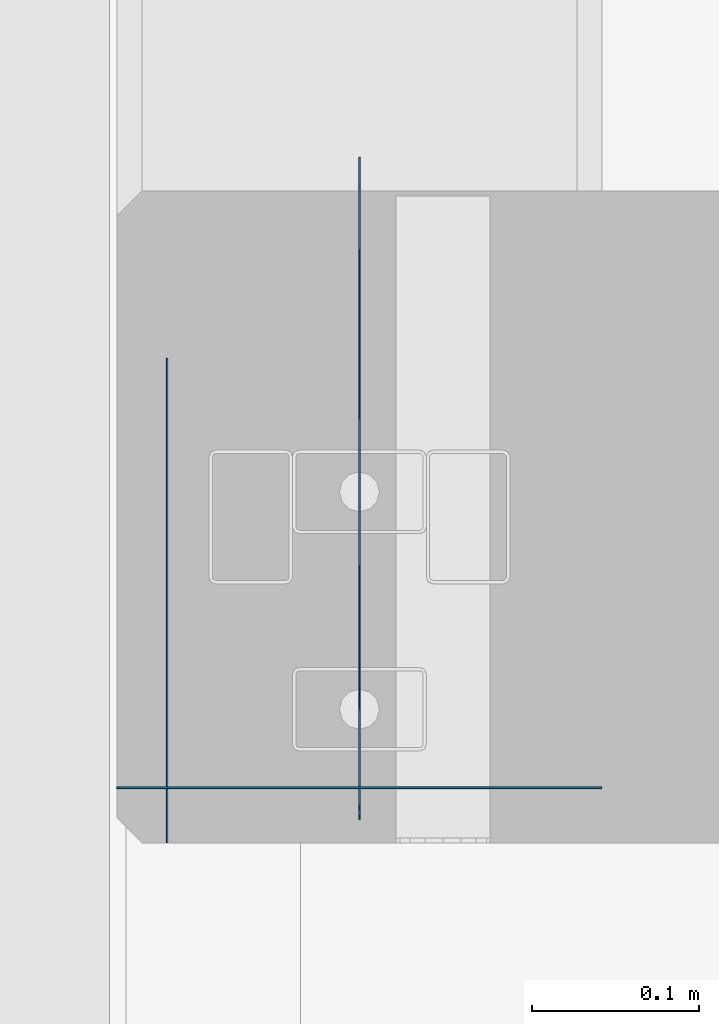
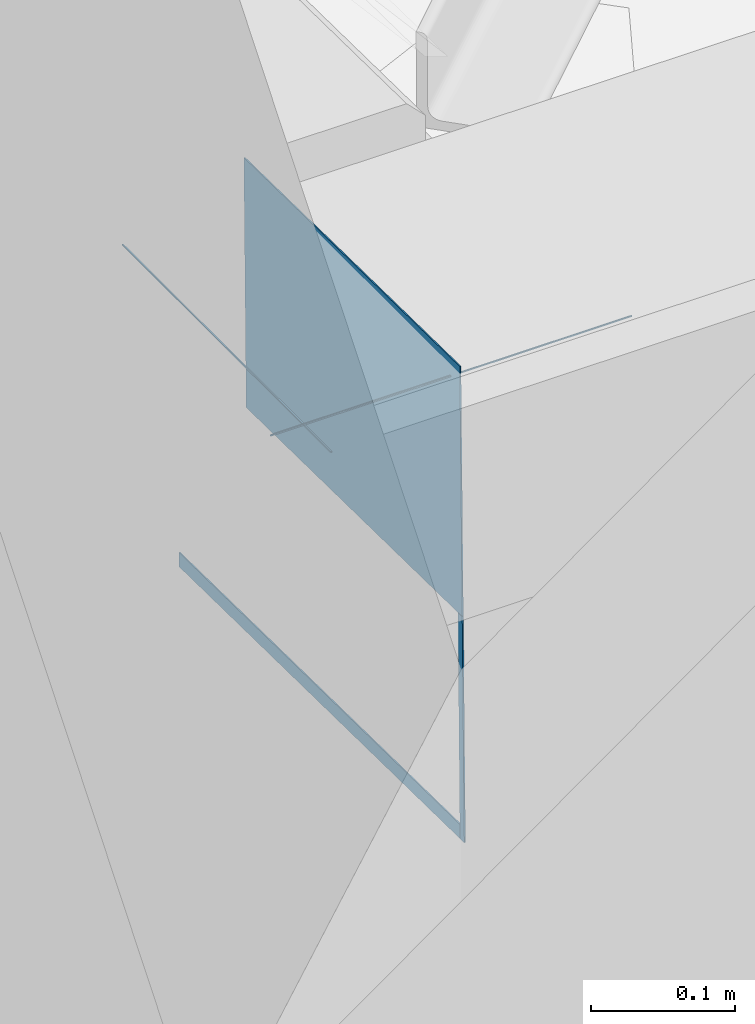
# One storey, part 10 of 186: 5 beams.
"""IFC4X3_ADD2 building model written with IfcOpenShell, lengths in millimetres."""

import ifcopenshell
import ifcopenshell.guid

model = None  # the IFC model being written
_history = None  # IfcOwnerHistory: only IFC2X3 demands one
_inside = {}  # id of a spatial element -> (the spatial element, [elements in it])
_under = {}  # id of a project, library or spatial element -> (it, [spatial elements below it])
_declared = {}  # id of a project -> (the project, [libraries it declares])
_typed = {}  # id of a type object -> (the type object, [elements of that type])
_made_of = {}  # id of a material, layer set ... -> (it, [elements and type objects made of it])


def new_model(schema):
    """Start an empty IFC model of exactly this schema.

    Asked for "IFC4X3", IfcOpenShell would pick the latest addendum, in which some entities
    have other attributes; the version numbers below select the first issue.
    IFC2X3 requires an IfcOwnerHistory on every rooted entity: one is made here for all.
    """
    global model, _history
    if schema == "IFC4X3":
        model = ifcopenshell.file(schema_version=(4, 3, 0, 0))
    else:
        model = ifcopenshell.file(schema=schema)
    _inside.clear()
    _under.clear()
    _declared.clear()
    _typed.clear()
    _made_of.clear()
    _history = None
    if model.schema == "IFC2X3":
        org = make("IfcOrganization", Name="unknown")
        user = make(
            "IfcPersonAndOrganization",
            ThePerson=make("IfcPerson", FamilyName="unknown"),
            TheOrganization=org,
        )
        app = make(
            "IfcApplication",
            ApplicationDeveloper=org,
            Version="unknown",
            ApplicationFullName="unknown",
            ApplicationIdentifier="unknown",
        )
        _history = make(
            "IfcOwnerHistory",
            OwningUser=user,
            OwningApplication=app,
            ChangeAction="ADDED",
            CreationDate=0,
        )
    return model


def make(cls, **values):
    """One entity of the class cls with the attributes given. An attribute that is None is left unset."""
    return model.create_entity(
        cls, **{name: value for name, value in values.items() if value is not None}
    )


def rooted(cls, **values):
    """An entity with a GlobalId (a new one), such as an element, a storey or a relation."""
    return make(cls, GlobalId=ifcopenshell.guid.new(), OwnerHistory=_history, **values)


def si_unit(unit_type, name, prefix=None):
    """IfcSIUnit, for example si_unit("LENGTHUNIT", "METRE", prefix="MILLI")."""
    return make("IfcSIUnit", UnitType=unit_type, Prefix=prefix, Name=name)


def assignment(units):
    """IfcUnitAssignment: the units of a project."""
    return None if units is None else make("IfcUnitAssignment", Units=units)


def point(xyz):
    """IfcCartesianPoint."""
    return None if xyz is None else make("IfcCartesianPoint", Coordinates=xyz)


def direction(xyz):
    """IfcDirection."""
    return None if xyz is None else make("IfcDirection", DirectionRatios=xyz)


def frame(location, z_axis=None, x_axis=None):
    """IfcAxis2Placement3D, a coordinate frame: its origin and axes. An axis left out is left unset."""
    return make(
        "IfcAxis2Placement3D",
        Location=point(location),
        Axis=direction(z_axis),
        RefDirection=direction(x_axis),
    )


def frame_2d(location, x_axis=None):
    """IfcAxis2Placement2D, a coordinate frame in the plane: its origin and x axis."""
    return make(
        "IfcAxis2Placement2D", Location=point(location), RefDirection=direction(x_axis)
    )


def origin_with_axes():
    """The frame at (0, 0, 0) with the z axis (0, 0, 1) and the x axis (1, 0, 0) written out."""
    return frame((0.0, 0.0, 0.0), z_axis=(0.0, 0.0, 1.0), x_axis=(1.0, 0.0, 0.0))


def place(relative_to, where):
    """IfcLocalPlacement: puts the frame where relative to a parent placement (None: the world)."""
    return make(
        "IfcLocalPlacement", PlacementRelTo=relative_to, RelativePlacement=where
    )


def context(
    kind, dimensions, precision=None, world=None, true_north=None, identifier=None
):
    """IfcGeometricRepresentationContext, for example the 3D "Model" context."""
    return make(
        "IfcGeometricRepresentationContext",
        ContextIdentifier=identifier,
        ContextType=kind,
        CoordinateSpaceDimension=dimensions,
        Precision=precision,
        WorldCoordinateSystem=world,
        TrueNorth=true_north,
    )


def subcontext(parent, identifier, kind, view, scale=None):
    """IfcGeometricRepresentationSubContext, for example "Body" below "Model"."""
    return make(
        "IfcGeometricRepresentationSubContext",
        ContextIdentifier=identifier,
        ContextType=kind,
        ParentContext=parent,
        TargetScale=scale,
        TargetView=view,
    )


def project(units=None, contexts=None):
    """IfcProject with its units and contexts."""
    return rooted(
        "IfcProject",
        Name="project",
        RepresentationContexts=contexts,
        UnitsInContext=assignment(units),
    )


def spatial(cls, under=None, at=None, **own):
    """A site, building, storey or space (cls), placed at a placement, below another one or the project."""
    s = rooted(cls, ObjectPlacement=at, **own)
    if under is not None:
        _under.setdefault(under.id(), (under, []))[1].append(s)
    return s


def polyline(points):
    """IfcPolyline through the points."""
    return make("IfcPolyline", Points=[point(p) for p in points])


def profile(cls, at=None, kind="AREA", **sizes):
    """A parametric profile (cls). Its sizes go by their IFC names, for example OverallWidth=200.0."""
    return make(cls, ProfileType=kind, Position=at, **sizes)


def rectangle(**sizes):
    """IfcRectangleProfileDef."""
    return profile("IfcRectangleProfileDef", **sizes)


def outline(outer, holes=None, kind="AREA"):
    """IfcArbitraryClosedProfileDef: a profile drawn as a closed curve; with holes, ...WithVoids."""
    if holes is None:
        return make("IfcArbitraryClosedProfileDef", ProfileType=kind, OuterCurve=outer)
    return make(
        "IfcArbitraryProfileDefWithVoids",
        ProfileType=kind,
        OuterCurve=outer,
        InnerCurves=holes,
    )


def extrude(swept, where, along, depth):
    """IfcExtrudedAreaSolid: the profile swept, set in the frame where, extruded along a direction by depth."""
    return make(
        "IfcExtrudedAreaSolid",
        SweptArea=swept,
        Position=where,
        ExtrudedDirection=direction(along),
        Depth=depth,
    )


def boolean(op, a, b):
    """IfcBooleanResult of two solids."""
    return make("IfcBooleanResult", Operator=op, FirstOperand=a, SecondOperand=b)


def shape(context_of_items, identifier, shape_type, items):
    """IfcShapeRepresentation: the items that make up one representation, for example the "Body"."""
    return make(
        "IfcShapeRepresentation",
        ContextOfItems=context_of_items,
        RepresentationIdentifier=identifier,
        RepresentationType=shape_type,
        Items=items,
    )


def material(Name=None, Category=None):
    """IfcMaterial."""
    return make("IfcMaterial", Name=Name, Category=Category)


def made_of(thing, what):
    """Note that an element or type object is made of a material, layer set ...; save() writes the relation."""
    if what is not None:
        _made_of.setdefault(what.id(), (what, []))[1].append(thing)
    return thing


def type_object(cls, material=None, **own):
    """A type object (cls), such as IfcWallType, which elements share."""
    return made_of(rooted(cls, **own), material)


def element(
    cls,
    number,
    at=None,
    inside=None,
    cuts=None,
    type_object=None,
    material=None,
    context=None,
    identifier="Body",
    shape_type=None,
    held_by="IfcProductDefinitionShape",
    body=None,
    shapes=None,
    **own,
):
    """One element of the class cls, such as IfcWall. Its Tag is "e" and its number.

    at: its placement. inside: the storey or other place that contains it. cuts: it is an
    opening in that element (IfcRelVoidsElement). A single representation is given by context,
    identifier, shape_type and body (its items); several are given by shapes. held_by: the class
    of the entity that holds the representations. save() writes the other relations.
    """
    e = rooted(cls, Tag="e%d" % number, ObjectPlacement=at, **own)
    if body is not None:
        shapes = [shape(context, identifier, shape_type, body)]
    if shapes is not None:
        e.Representation = make(held_by, Representations=shapes)
    if inside is not None:
        _inside.setdefault(inside.id(), (inside, []))[1].append(e)
    if cuts is not None:
        rooted(
            "IfcRelVoidsElement", RelatingBuildingElement=cuts, RelatedOpeningElement=e
        )
    if type_object is not None:
        _typed.setdefault(type_object.id(), (type_object, []))[1].append(e)
    return made_of(e, material)


def aggregate(whole, parts):
    """IfcRelAggregates: a whole, such as a stair, and the parts it consists of."""
    return rooted("IfcRelAggregates", RelatingObject=whole, RelatedObjects=parts)


def save(model, path):
    """Write the relations noted so far, then the file.

    IfcRelAggregates (storeys below a building ...), IfcRelContainedInSpatialStructure (elements
    in a storey), IfcRelDefinesByType, IfcRelAssociatesMaterial and IfcRelDeclares: one each for
    every whole, place, type object, material and project.
    """
    for whole, parts in _under.values():
        aggregate(whole, parts)
    for where, things in _inside.values():
        rooted(
            "IfcRelContainedInSpatialStructure",
            RelatedElements=things,
            RelatingStructure=where,
        )
    for kind, things in _typed.values():
        rooted("IfcRelDefinesByType", RelatedObjects=things, RelatingType=kind)
    for what, things in _made_of.values():
        rooted("IfcRelAssociatesMaterial", RelatedObjects=things, RelatingMaterial=what)
    for by, libraries in _declared.values():
        rooted("IfcRelDeclares", RelatingContext=by, RelatedDefinitions=libraries)
    model.write(path)


model = new_model("IFC4X3_ADD2")

# Units and contexts
model_context = context("Model", 3, precision=1e-05, world=origin_with_axes(), true_north=direction((0.0, 1.0)))
body_context = subcontext(model_context, "Body", "Model", "MODEL_VIEW")
ifc_project = project(units=[si_unit("LENGTHUNIT", "METRE", prefix="MILLI"), si_unit("AREAUNIT", "SQUARE_METRE"), si_unit("VOLUMEUNIT", "CUBIC_METRE"), si_unit("PLANEANGLEUNIT", "RADIAN"), si_unit("TIMEUNIT", "SECOND"), si_unit("MASSUNIT", "GRAM")], contexts=[model_context])

# Site, building, storey
site_placement = place(None, origin_with_axes())
site = spatial("IfcSite", under=ifc_project, at=site_placement, Name="Site", CompositionType="ELEMENT")
building_placement = place(site_placement, origin_with_axes())
building = spatial("IfcBuilding", under=site, at=building_placement, Name="IFC Building Story")
storey_placement = place(building_placement, frame((0.0, 0.0, 4370.0), z_axis=(0.0, 0.0, 1.0), x_axis=(1.0, 0.0, 0.0)))
storey = spatial("IfcBuildingStorey", under=building, at=storey_placement, Name="ETAGE 10 (1)", Elevation=4370.0)

# Beams
ifc_material_1 = material(Name="STEEL/Accessory_invisible 261")
beam_type_1 = type_object("IfcBeamType", Name="210*1", PredefinedType="NOTDEFINED")
beam_1_placement = place(storey_placement, frame((33350.6876988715, -14291.6318576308, 3266.94658115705), z_axis=(1.0, 0.0, 0.0), x_axis=(0.0, -0.01554157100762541, -0.9998792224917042)))
element("IfcBeam", 1, at=beam_1_placement, inside=storey, type_object=beam_type_1, material=ifc_material_1, Name="BEK4", ObjectType="210*1", context=body_context, shape_type="CSG", body=[
    boolean("UNION", boolean("UNION", extrude(rectangle(XDim=210.000000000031, YDim=300.036162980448, at=frame_2d((0.0, 5.95523630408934e-12), x_axis=(1.0, 0.0))), origin_with_axes(), (0.0, 0.0, 1.0), 1.0), extrude(outline(polyline([(105.0000000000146, -1.866218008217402e-05), (-105.0000000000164, -1.866218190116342e-05), (-105.0000000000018, 1.866218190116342e-05), (105.0, 1.866218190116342e-05), (105.0000000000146, -1.866218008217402e-05)])), frame((0.0, 150.0181001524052, 0.0), z_axis=(0.0, 0.0, 1.0), x_axis=(1.0, 0.0, 0.0)), (0.0, 0.0, 1.0), 1.0)), extrude(outline(polyline([(-105.0000000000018, 1.866218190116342e-05), (105.0, 1.866218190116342e-05), (105.0000000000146, -1.866218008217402e-05), (-105.0000000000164, -1.866218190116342e-05), (-105.0000000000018, 1.866218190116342e-05)])), frame((0.0, -150.018100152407, 0.0), z_axis=(0.0, 0.0, 1.0), x_axis=(1.0, 0.0, 0.0)), (0.0, 0.0, 1.0), 1.0)),
])
beam_type_2 = type_object("IfcBeamType", Name="12*1", PredefinedType="NOTDEFINED")
beam_2_placement = place(storey_placement, frame((33350.6876988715, -14245.0171569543, 2977.18711904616), z_axis=(1.0, 0.0, 0.0), x_axis=(0.0, -0.01554157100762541, -0.9998792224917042)))
element("IfcBeam", 2, at=beam_2_placement, inside=storey, type_object=beam_type_2, material=ifc_material_1, Name="BEK4", ObjectType="12*1", context=body_context, shape_type="CSG", body=[
    boolean("UNION", boolean("UNION", extrude(rectangle(XDim=12.0000000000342, YDim=390.260883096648, at=frame_2d((0.0, 5.95523630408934e-12), x_axis=(1.0, 0.0))), origin_with_axes(), (0.0, 0.0, 1.0), 1.0), extrude(outline(polyline([(6.000000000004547, -0.001769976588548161), (-6.000000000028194, -0.001769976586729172), (-5.999999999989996, 0.00176997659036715), (6.000000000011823, 0.00176997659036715), (6.000000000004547, -0.001769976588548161)])), frame((1.182343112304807e-11, 195.1322115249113, 0.0), z_axis=(0.0, 0.0, 1.0), x_axis=(1.0, 0.0, 0.0)), (0.0, 0.0, 1.0), 1.0)), extrude(outline(polyline([(-5.999999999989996, 0.00176997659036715), (6.000000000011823, 0.00176997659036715), (6.000000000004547, -0.001769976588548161), (-6.000000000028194, -0.001769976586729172), (-5.999999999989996, 0.00176997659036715)])), frame((-1.091393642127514e-11, -195.132211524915, 0.0), z_axis=(0.0, 0.0, 1.0), x_axis=(1.0, 0.0, 0.0)), (0.0, 0.0, 1.0), 1.0)),
])
ifc_material_2 = material(Name="STEEL/Accessory_invisible")
beam_3_placement = place(storey_placement, frame((33235.688, -14314.9500000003, 3354.0989815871), z_axis=(1.0, 0.0, 0.0), x_axis=(0.0, 0.0, 1.0)))
element("IfcBeam", 3, at=beam_3_placement, inside=storey, material=ifc_material_2, Name="ZW3", ObjectType="1*1 11", context=body_context, shape_type="SweptSolid", body=[
    extrude(rectangle(XDim=0.9999999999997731, YDim=289.900000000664, at=frame_2d((0.0, 5.95523630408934e-12), x_axis=(1.0, 0.0))), origin_with_axes(), (0.0, 0.0, 1.0), 1.0),
])
beam_4_placement = place(storey_placement, frame((33496.08769887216, -14426.983949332, 3358.561230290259), z_axis=(-1.0, 0.0, 0.0), x_axis=(0.0, 1.0, 0.0)))
element("IfcBeam", 4, at=beam_4_placement, inside=storey, material=ifc_material_2, Name="ZW3", ObjectType="1*1 3", context=body_context, shape_type="SweptSolid", body=[
    extrude(rectangle(XDim=0.9999999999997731, YDim=0.9999999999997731, at=frame_2d((0.0, 5.95523630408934e-12), x_axis=(1.0, 0.0))), origin_with_axes(), (0.0, 0.0, 1.0), 289.9000000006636),
])
beam_5_placement = place(storey_placement, frame((33351.6876988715, -14441.7424583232, 3069.255685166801), z_axis=(-1.0, 0.0, 0.0), x_axis=(0.0, 0.01555025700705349, 0.9998790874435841)))
element("IfcBeam", 5, at=beam_5_placement, inside=storey, material=ifc_material_1, Name="BEK4", ObjectType="6*1 5", context=body_context, shape_type="SweptSolid", body=[
    extrude(rectangle(XDim=190.000000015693, YDim=5.99999999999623, at=frame_2d((0.0, 5.95523630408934e-12), x_axis=(1.0, 0.0))), origin_with_axes(), (0.0, 0.0, 1.0), 1.0),
])

save(model, "model.ifc")
